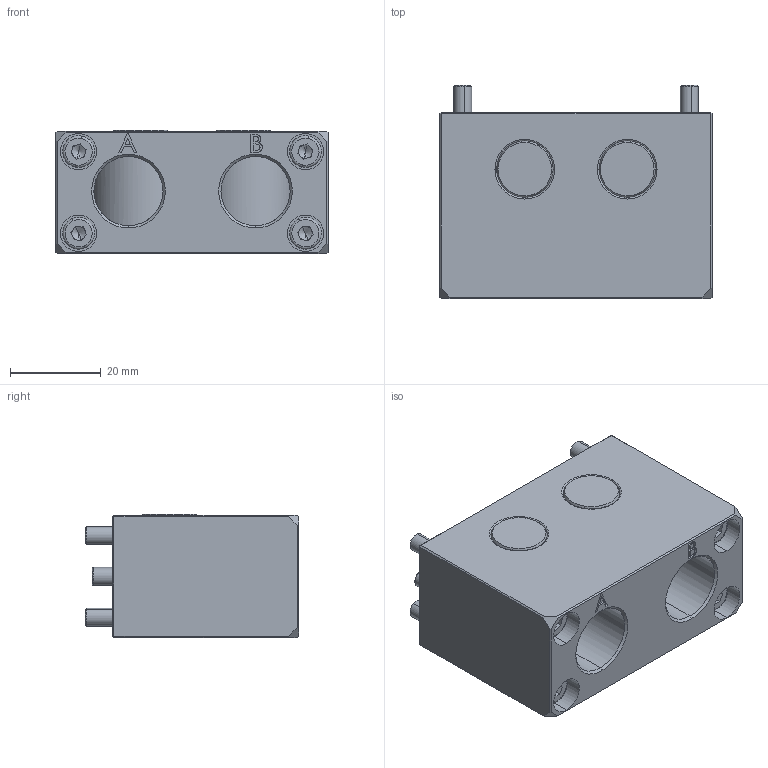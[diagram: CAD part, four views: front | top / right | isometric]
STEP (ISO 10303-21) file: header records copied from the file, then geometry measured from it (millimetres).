
FILE_DESCRIPTION(/* description */ (''),/* implementation_level */ '2;1');
FILE_NAME(/* name */ 'QCWM-02G',/* time_stamp */ '2023-02-24T14:04:26+08:00',/* author */ (''),/* organization */ (''),/* preprocessor_version */ 'ST-DEVELOPER v9',/* originating_system */ 'UGS - NX 4.0',/* authorisation */ '');
FILE_SCHEMA (('AUTOMOTIVE_DESIGN { 1 0 10303 214 1 1 1 1 }'));
Length unit declared in the file: millimetre
Products named in the file (1): AdmiEF92k6vu
Bounding box: 60 x 47 x 27.2 mm (x, y, z)
Volume: 57853.6 mm3; surface area: 18286.3 mm2
Topology: 1 solids, 1 shells, 260 faces, 597 edges, 365 vertices
Faces by surface type: plane 138, cylinder 51, cone 45, torus 18, extrusion 8
Full cylindrical faces by diameter (mm): 4 x2
Entity records: 7612 total; most frequent: CARTESIAN_POINT 1683, DIRECTION 1264, ORIENTED_EDGE 1166, EDGE_CURVE 583, AXIS2_PLACEMENT_3D 456, VERTEX_POINT 365, VECTOR 352, LINE 344
